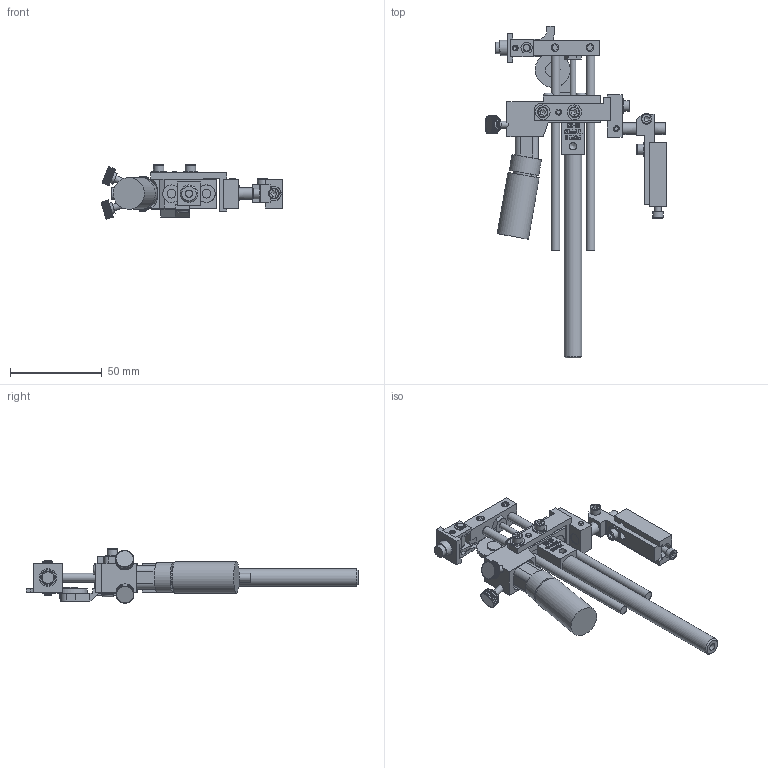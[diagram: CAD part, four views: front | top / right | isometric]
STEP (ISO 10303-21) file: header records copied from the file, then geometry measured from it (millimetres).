
FILE_DESCRIPTION((''),'2;1');
FILE_NAME('C:\Documents and Settings\Ron\My Documents\Inventor\Sprinter Drawing\Machines in Inventor\Model 22\Dot\1-fourth\Ext Str\E2\Brkt\90\Model 22 ES 2 1-4 dot 90 deg w brkt.stp','2009-01-22T09:55:08',('Ron'),(''),'Autodesk Inventor 2008','Autodesk Inventor 2008','');
FILE_SCHEMA(('AUTOMOTIVE_DESIGN { 1 0 10303 214 1 1 1 1 }'));
Length unit declared in the file: inch
Products named in the file (1): Model 22 ES 2 1-4 dot 90 deg w brkt
Bounding box: 99.17 x 181.01 x 29.56 mm (x, y, z)
Volume: 62342.2 mm3; surface area: 37129.8 mm2
Topology: 35 solids, 35 shells, 4756 faces, 13167 edges, 8746 vertices
Faces by surface type: plane 2908, bspline 1292, cylinder 482, cone 60, torus 14
Full cylindrical faces by diameter (mm): 2.845 x3, 2.946 x2, 3.175 x4, 3.505 x7, 3.556 x2, 3.658 x1, 3.876 x1, 3.962 x9, 4.064 x1, 4.166 x3, 4.648 x2, 4.699 x1, 4.75 x1, 4.763 x2, 4.775 x2, 4.788 x1, 5.41 x2, 5.74 x6, 6.096 x1, 6.325 x2, 6.35 x4, 6.477 x1, 6.655 x1, 7.925 x4, 7.938 x1, 8.128 x1, 8.334 x1, 9.462 x1, 9.525 x1, 10.922 x1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
Entity records: 166294 total; most frequent: CARTESIAN_POINT 49290, ORIENTED_EDGE 25796, DIRECTION 18492, EDGE_CURVE 12898, VECTOR 9066, LINE 9066, VERTEX_POINT 8658, EDGE_LOOP 5282
